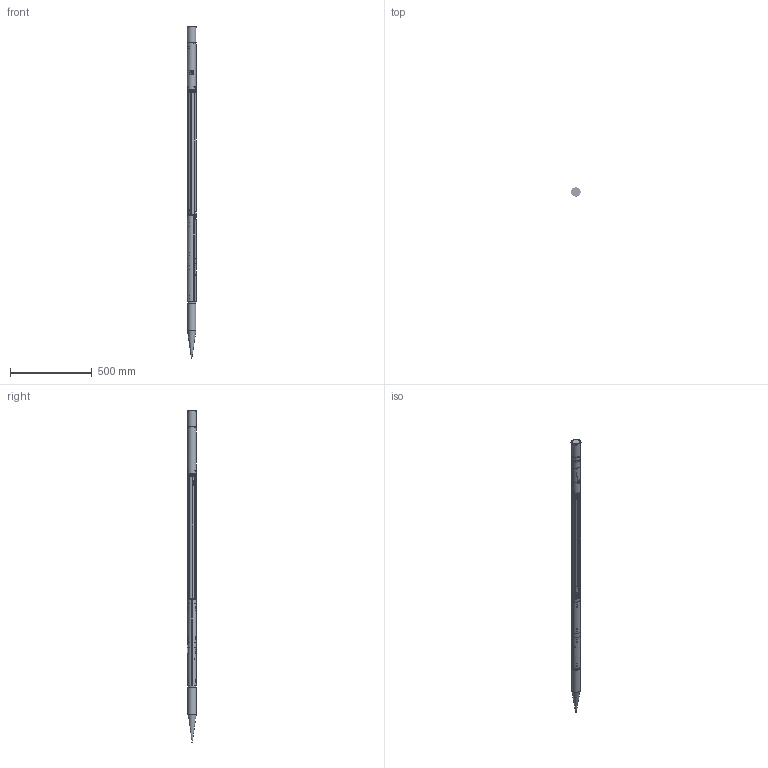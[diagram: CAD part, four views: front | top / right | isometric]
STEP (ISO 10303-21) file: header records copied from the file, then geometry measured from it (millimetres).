
FILE_DESCRIPTION(('Open CASCADE Model'),'2;1');
FILE_NAME('Open CASCADE Shape Model','2026-08-24T18:35:46',('Author'),( 'Open CASCADE'),'Open CASCADE STEP processor 7.9','Open CASCADE 7.9' ,'Unknown');
FILE_SCHEMA(('AP242_MANAGED_MODEL_BASED_3D_ENGINEERING_MIM_LF {1 0 10303 442 1 1 4 }' ));
Length unit declared in the file: millimetre
Products named in the file (136): Stingray_Stowed_Inspection_Assembly; Forward_Body_Assembly; Penetrator_Nose_W; Forward_Ballast_W; Forward_Shell_TI; PRIMARY_STRUCTURAL_TRANSITION_RING_WITH_FOUR_TAPPED_CARRIER_LANDS_TI; STRUCTURAL_RING_WITH_ROUTE_PASSAGES_ARM_RELIEFS_AND_FULLFLOW_CIRCLIP_
REACTION_CAGE_TI; Leland_CO2_Cylinder_89200_01; Leland_65026_InterfaceEnvelope_PROXY_01; COMPLIANT_SECTOR_CRADLE_PAD_WITH_INTEGRAL_ANTI-CHAFE_FACE_01; SERVICE-REMOVABLE_AXIAL_CYLINDER_RETAINER_TI_02; Commercial_HP_Hose_Interface_PROXY_01; Commercial_Pressure_Control_PROXY_01; Qualified_LOW-PRESSURE-BRANCH; Qualified_LOW-PRESSURE-BRANCH-B; POST-CONTROL_TWO-INLET_COMMON_BUOY_FEED_SS; Qualified_LP-FLOW-CONTROL-PROXY; WATER-AUTHORIZED_NON-PRESSURE_TRIGGER_HOUSING_WITH_RESET_INTERFACE_AC; Nordson_V80040-ARCH-C; RADIAL_WATER_AUTHORIZATION_INLET_AND_SCREEN_SS; PROTECTED_NON-PRESSURE_AUTHORIZATION_GUIDE_PTFE; BALANCED_ANNULAR_EQUALIZER_WITH_TWO_POSITIVE_OUTPUTS_SS; CAPTURED_DUAL-RELEASE_DRIVE_SPRING_SS; WITHDRAWABLE_POSITIVE_TRANSPORT-SAFE_PIN_SS; POSITIVE_MECHANICAL_RELEASE_OUTPUT_ROD_SS_01; CAPTURED_MECHANICAL_OUTPUT_GUIDE_SS_01; POSITIVE_FULL-STROKE_OUTPUT_WITNESS_PEEK_01; Forward_Mandatory_Hardware_Assembly; Accu_HTP-3-30-A1; Arm_Activation_Powertrain_Assembly; ANALYTIC_CYLINDRICAL_FIXED_BODY_SECTOR_TI_01; PRIMARY_LONGERON_WITH_TWO_JIG-BORED_ROUTE_CHANNELS_TI_01; FIXED_SECTOR_3_WITH_TWO_RADIAL_M3_BACKUP-GUIDE_HEAD_POCKETS_TI; PRIMARY_LONGERON_3_WITH_TWO_RADIAL_BACKUP-GUIDE_M3_CLEARANCE_BORES_TI; ARM_MODULE_AFT_STRUCTURAL_RING_WITH_THREE_PRESSURE-RESERVOIR_PASSAGES_
TI; AFT_REPACK_BAY_GRADE-9_TITANIUM_SHELL_TI; Common_Crosshead_SS; CENTRAL_DLC_CROSSHEAD_GUIDE_SHAFT_WITH_SPIDER_SHOULDER_SS; THREE-SPOKE_CROSSHEAD-GUIDE_FORWARD_MOUNT_TI; CONTROLLED_16_N_MM_GUIDED_BACKUP_COMPRESSION_SPRING_SS ...
Assembly tree (264 placements, depth 4):
  Stingray_Stowed_Inspection_Assembly
    Forward_Body_Assembly
      Penetrator_Nose_W
      Forward_Ballast_W
      Forward_Shell_TI
      PRIMARY_STRUCTURAL_TRANSITION_RING_WITH_FOUR_TAPPED_CARRIER_LANDS_TI
      STRUCTURAL_RING_WITH_ROUTE_PASSAGES_ARM_RELIEFS_AND_FULLFLOW_CIRCLIP_
REACTION_CAGE_TI
      Leland_CO2_Cylinder_89200_01  x2
      Leland_65026_InterfaceEnvelope_PROXY_01  x2
      COMPLIANT_SECTOR_CRADLE_PAD_WITH_INTEGRAL_ANTI-CHAFE_FACE_01  x12
      SERVICE-REMOVABLE_AXIAL_CYLINDER_RETAINER_TI_02  x2
      Commercial_HP_Hose_Interface_PROXY_01  x2
      Commercial_Pressure_Control_PROXY_01  x2
      Qualified_LOW-PRESSURE-BRANCH
      Qualified_LOW-PRESSURE-BRANCH-B
      POST-CONTROL_TWO-INLET_COMMON_BUOY_FEED_SS
      Qualified_LP-FLOW-CONTROL-PROXY
      WATER-AUTHORIZED_NON-PRESSURE_TRIGGER_HOUSING_WITH_RESET_INTERFACE_AC
      Nordson_V80040-ARCH-C
      RADIAL_WATER_AUTHORIZATION_INLET_AND_SCREEN_SS
      PROTECTED_NON-PRESSURE_AUTHORIZATION_GUIDE_PTFE
      BALANCED_ANNULAR_EQUALIZER_WITH_TWO_POSITIVE_OUTPUTS_SS
      CAPTURED_DUAL-RELEASE_DRIVE_SPRING_SS
      WITHDRAWABLE_POSITIVE_TRANSPORT-SAFE_PIN_SS
      POSITIVE_MECHANICAL_RELEASE_OUTPUT_ROD_SS_01  x2
      CAPTURED_MECHANICAL_OUTPUT_GUIDE_SS_01  x2
      POSITIVE_FULL-STROKE_OUTPUT_WITNESS_PEEK_01  x2
      Forward_Mandatory_Hardware_Assembly
        Accu_HTP-3-30-A1
    Arm_Activation_Powertrain_Assembly
      ANALYTIC_CYLINDRICAL_FIXED_BODY_SECTOR_TI_01  x2
      PRIMARY_LONGERON_WITH_TWO_JIG-BORED_ROUTE_CHANNELS_TI_01  x2
      FIXED_SECTOR_3_WITH_TWO_RADIAL_M3_BACKUP-GUIDE_HEAD_POCKETS_TI
      PRIMARY_LONGERON_3_WITH_TWO_RADIAL_BACKUP-GUIDE_M3_CLEARANCE_BORES_TI
      ARM_MODULE_AFT_STRUCTURAL_RING_WITH_THREE_PRESSURE-RESERVOIR_PASSAGES_
TI
      AFT_REPACK_BAY_GRADE-9_TITANIUM_SHELL_TI
      Common_Crosshead_SS
      CENTRAL_DLC_CROSSHEAD_GUIDE_SHAFT_WITH_SPIDER_SHOULDER_SS
      THREE-SPOKE_CROSSHEAD-GUIDE_FORWARD_MOUNT_TI
      CONTROLLED_16_N_MM_GUIDED_BACKUP_COMPRESSION_SPRING_SS
      BACKUP_SPRING_AFT_FIXED_SEAT_WITH_LONGERON_MOUNTING_TONGUE_TI
      BACKUP_SPRING_CROSSHEAD_SEAT_WITH_PILOTED_PERMANENT_LAND_SS
      BACKUP_SPRING_DLC_GUIDE_SHAFT_WITH_TWO_FIXED_SUPPORT_SHOULDERS_SS
      ACE_Gas_Spring_GS-19-50-V4A-B8-B8
      ACE_Gas_Spring_Rod_GS-19-50-V4A-B8-B8
      ACE_Hydraulic_Damper_HBD-15-25-AA-P
      ACE_Hydraulic_Damper_Rod_HBD-15-25-AA-P
      DOUBLE-SHEAR_GS19_ANCHOR_YOKE_WITH_CONFORMAL_LONGERON_TONGUE_TI
      4_MM_CAPTIVE_ACTUATOR_CLEVIS_PIN_SS_01  x4
      4_MM_ACTUATOR_PIN_RETAINER_SS_01  x4
      DOUBLE-SHEAR_HBD_ANCHOR_YOKE_WITH_CONFORMAL_LONGERON_TONGUE_TI
      Gas_Main_SS
      Pilot_Line_SS
      Bowden_Sheath
      Bowden_Wire_SS
      GAS_MAIN_TWO-COLLAR_BULKHEAD_GLAND_SS_02  x2
      PILOT_LINE_TWO-COLLAR_BULKHEAD_GLAND_SS_02  x2
      BOWDEN_SHEATH_TWO-COLLAR_BULKHEAD_GLAND_SS_02  x2
      SPLIT_PEEK_GUIDE_LINER_FOR_GAS_MAIN_LONG_SPAN_PEEK
      SPLIT_PEEK_GUIDE_LINER_FOR_PILOT_LINE_LONG_SPAN_PEEK
Bounding box: 60.75 x 57.04 x 2031 mm (x, y, z)
Volume: 2136688.1 mm3; surface area: 1010223 mm2
Topology: 271 solids, 271 shells, 4990 faces, 13297 edges, 8937 vertices
Faces by surface type: plane 2876, cylinder 1997, cone 50, torus 26, sphere 21, bspline 20
Full cylindrical faces by diameter (mm): 0.56 x1, 0.7 x3, 0.8 x3, 0.84 x7, 0.9 x16, 1 x3, 1.2 x10, 1.3 x9, 1.4 x2, 1.5 x7, 1.58 x5, 1.6 x10, 1.66 x2, 1.7 x13, 1.76 x2, 1.8 x3, 1.9 x1, 2 x8, 2.1 x3, 2.16 x2, 2.2 x30, 2.3 x9, 2.5 x38, 2.66 x3, 2.7 x6, 2.8 x2, 3 x54, 3.1 x6, 3.2 x9, 3.24 x4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
Entity records: 233525 total; most frequent: CARTESIAN_POINT 102345, DIRECTION 23009, ORIENTED_EDGE 13086, PCURVE 13080, DEFINITIONAL_REPRESENTATION 13080, LINE 9341, VECTOR 9341, EDGE_CURVE 6540
